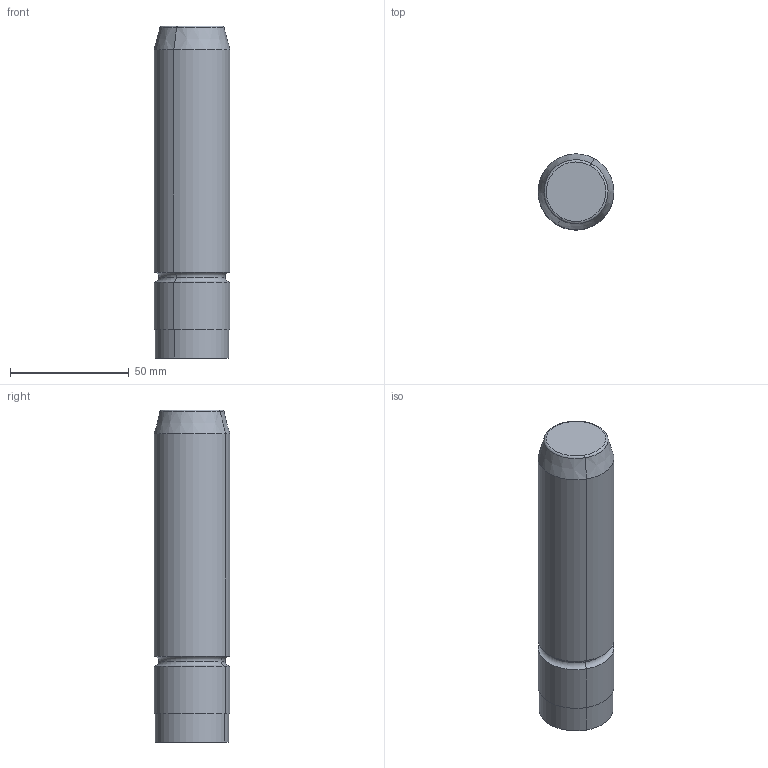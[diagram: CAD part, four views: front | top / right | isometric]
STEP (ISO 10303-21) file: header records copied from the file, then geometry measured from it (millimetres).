
FILE_DESCRIPTION(('CATIA V5 STEP Exchange'),'2;1');
FILE_NAME('C:\Users\Utente\Desktop\IO LAVORO\3D X SITO CF\X SITO\M104\M104-32x140.stp','2020-12-26T21:34:39+00:00',('none'),('none'),'CATIA Version 5 Release 20 GA (IN-10)','CATIA V5 STEP AP203','none');
FILE_SCHEMA(('CONFIG_CONTROL_DESIGN'));
Length unit declared in the file: millimetre
Products named in the file (1): M104-32x140
Bounding box: 31.99 x 31.99 x 140 mm (x, y, z)
Volume: 110062.3 mm3; surface area: 15513.1 mm2
Topology: 1 solids, 1 shells, 17 faces, 32 edges, 18 vertices
Faces by surface type: cylinder 6, torus 6, plane 3, cone 2
Entity records: 438 total; most frequent: CARTESIAN_POINT 66, ORIENTED_EDGE 64, DIRECTION 62, AXIS2_PLACEMENT_3D 40, EDGE_CURVE 32, CIRCLE 24, EDGE_LOOP 18, VERTEX_POINT 18
